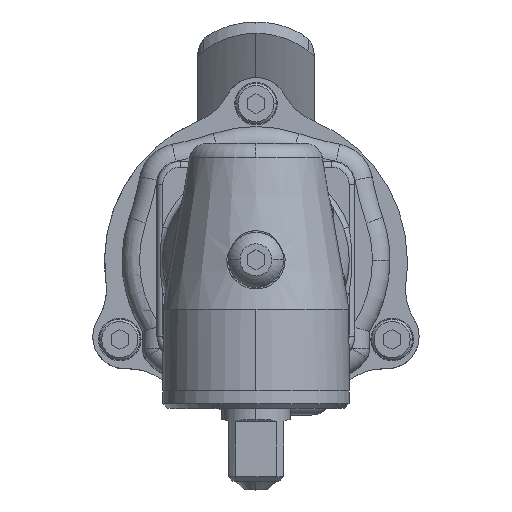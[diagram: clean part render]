
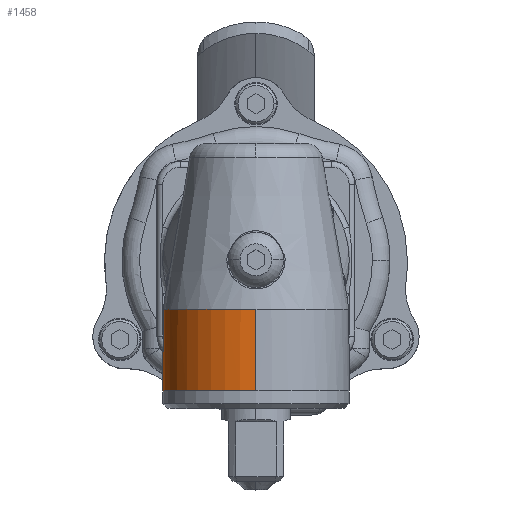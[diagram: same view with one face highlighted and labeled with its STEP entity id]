
A CAD part, top view. The second image highlights one B-rep face of the part: STEP entity #1458.
In plain terms, the highlighted cylindrical face has radius 16 mm (diameter 32 mm), a partial arc.
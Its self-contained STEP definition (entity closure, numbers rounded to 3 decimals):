
#1293 = VERTEX_POINT ( 'NONE', #63488 ) ;
#1295 = VERTEX_POINT ( 'NONE', #63487 ) ;
#1342 = VERTEX_POINT ( 'NONE', #63657 ) ;
#1351 = EDGE_CURVE ( 'NONE', #1293, #1295, #63681, .T. ) ;
#1458 = ADVANCED_FACE ( 'NONE', ( #63881 ), #63879, .T. ) ;
#1459 = EDGE_LOOP ( 'NONE', ( #1460, #1461, #1519, #1522, #1525, #1527 ) ) ;
#1460 = ORIENTED_EDGE ( 'NONE', *, *, #1351, .F. ) ;
#1461 = ORIENTED_EDGE ( 'NONE', *, *, #1492, .T. ) ;
#1490 = VERTEX_POINT ( 'NONE', #64029 ) ;
#1492 = EDGE_CURVE ( 'NONE', #1293, #1490, #64027, .T. ) ;
#1519 = ORIENTED_EDGE ( 'NONE', *, *, #1520, .T. ) ;
#1520 = EDGE_CURVE ( 'NONE', #1490, #1521, #64080, .T. ) ;
#1521 = VERTEX_POINT ( 'NONE', #64079 ) ;
#1522 = ORIENTED_EDGE ( 'NONE', *, *, #1523, .T. ) ;
#1523 = EDGE_CURVE ( 'NONE', #1521, #1524, #64071, .T. ) ;
#1524 = VERTEX_POINT ( 'NONE', #64072 ) ;
#1525 = ORIENTED_EDGE ( 'NONE', *, *, #1526, .T. ) ;
#1526 = EDGE_CURVE ( 'NONE', #1524, #1342, #64065, .T. ) ;
#1527 = ORIENTED_EDGE ( 'NONE', *, *, #1528, .F. ) ;
#1528 = EDGE_CURVE ( 'NONE', #1295, #1342, #64066, .T. ) ;
#63487 = CARTESIAN_POINT ( 'NONE',  ( 0., -22.5, 16. ) ) ;
#63488 = CARTESIAN_POINT ( 'NONE',  ( 0., -8.5, 16. ) ) ;
#63657 = CARTESIAN_POINT ( 'NONE',  ( -11.314, -22.5, -11.314 ) ) ;
#63678 = DIRECTION ( 'NONE',  ( 0., -1., 0. ) ) ;
#63679 = VECTOR ( 'NONE', #63678, 1000. ) ;
#63680 = CARTESIAN_POINT ( 'NONE',  ( 0., -27.252, 16. ) ) ;
#63681 = LINE ( 'NONE', #63680, #63679 ) ;
#63876 = DIRECTION ( 'NONE',  ( 0., 0., -1. ) ) ;
#63877 = DIRECTION ( 'NONE',  ( 0., -1., 0. ) ) ;
#63878 = AXIS2_PLACEMENT_3D ( 'NONE', #63880, #63877, #63876 ) ;
#63879 = CYLINDRICAL_SURFACE ( 'NONE', #63878, 16. ) ;
#63880 = CARTESIAN_POINT ( 'NONE',  ( 0., -27.252, 0. ) ) ;
#63881 = FACE_OUTER_BOUND ( 'NONE', #1459, .T. ) ;
#64011 = DIRECTION ( 'NONE',  ( 0., 0., -1. ) ) ;
#64012 = DIRECTION ( 'NONE',  ( 0., -1., 0. ) ) ;
#64013 = AXIS2_PLACEMENT_3D ( 'NONE', #64026, #64012, #64011 ) ;
#64026 = CARTESIAN_POINT ( 'NONE',  ( 0., -8.5, 0. ) ) ;
#64027 = CIRCLE ( 'NONE', #64013, 16. ) ;
#64029 = CARTESIAN_POINT ( 'NONE',  ( -14.554, -8.5, -6.646 ) ) ;
#64062 = CARTESIAN_POINT ( 'NONE',  ( -12.349, -12.764, -10.177 ) ) ;
#64063 = CARTESIAN_POINT ( 'NONE',  ( -12.168, -12.67, -10.394 ) ) ;
#64064 = CARTESIAN_POINT ( 'NONE',  ( -11.972, -12.605, -10.615 ) ) ;
#64065 = B_SPLINE_CURVE_WITH_KNOTS ( 'NONE', 3,
 ( #64064, #64063, #64062, #64121, #64120, #64119, #64118, #64117, #64116, #64115, #64114, #64113, #64112, #64111, #64110, #64109, #64108, #64107, #64106, #64105, #64104, #64103, #64102, #64101, #64100, #64099, #64098, #64097, #64096, #64095, #64094, #64093, #64092, #64091 ),
 .UNSPECIFIED., .F., .F.,
 ( 4, 2, 2, 2, 2, 2, 2, 2, 2, 2, 2, 2, 2, 2, 2, 2, 4 ),
 ( 0., 0.001, 0.002, 0.003, 0.004, 0.004, 0.005, 0.006, 0.007, 0.008, 0.009, 0.01, 0.011, 0.012, 0.012, 0.013, 0.014 ),
 .UNSPECIFIED. ) ;
#64066 = CIRCLE ( 'NONE', #64090, 16. ) ;
#64067 = CARTESIAN_POINT ( 'NONE',  ( -11.972, -12.605, -10.615 ) ) ;
#64068 = CARTESIAN_POINT ( 'NONE',  ( -12.932, -11.319, -9.532 ) ) ;
#64069 = CARTESIAN_POINT ( 'NONE',  ( -13.737, -9.892, -8.33 ) ) ;
#64070 = CARTESIAN_POINT ( 'NONE',  ( -14.373, -8.348, -7.03 ) ) ;
#64071 =( BOUNDED_CURVE ( )  B_SPLINE_CURVE ( 3, ( #64070, #64069, #64068, #64067 ),
 .UNSPECIFIED., .F., .T. ) 
 B_SPLINE_CURVE_WITH_KNOTS ( ( 4, 4 ),
 ( 5.167, 5.438 ),
 .UNSPECIFIED. ) 
 CURVE ( )  GEOMETRIC_REPRESENTATION_ITEM ( )  RATIONAL_B_SPLINE_CURVE ( ( 1., 0.994, 0.994, 1. ) ) 
 REPRESENTATION_ITEM ( '' )  );
#64072 = CARTESIAN_POINT ( 'NONE',  ( -11.972, -12.605, -10.615 ) ) ;
#64073 = CARTESIAN_POINT ( 'NONE',  ( -14.373, -8.348, -7.03 ) ) ;
#64074 = CARTESIAN_POINT ( 'NONE',  ( -14.394, -8.411, -6.987 ) ) ;
#64075 = CARTESIAN_POINT ( 'NONE',  ( -14.425, -8.45, -6.923 ) ) ;
#64076 = CARTESIAN_POINT ( 'NONE',  ( -14.489, -8.493, -6.789 ) ) ;
#64077 = CARTESIAN_POINT ( 'NONE',  ( -14.522, -8.5, -6.717 ) ) ;
#64078 = CARTESIAN_POINT ( 'NONE',  ( -14.554, -8.5, -6.646 ) ) ;
#64079 = CARTESIAN_POINT ( 'NONE',  ( -14.373, -8.348, -7.03 ) ) ;
#64080 = B_SPLINE_CURVE_WITH_KNOTS ( 'NONE', 3,
 ( #64078, #64077, #64076, #64075, #64074, #64073 ),
 .UNSPECIFIED., .F., .F.,
 ( 4, 2, 4 ),
 ( 0., 0., 0. ),
 .UNSPECIFIED. ) ;
#64087 = DIRECTION ( 'NONE',  ( 0., 0., -1. ) ) ;
#64088 = DIRECTION ( 'NONE',  ( 0., -1., 0. ) ) ;
#64089 = CARTESIAN_POINT ( 'NONE',  ( 0., -22.5, 0. ) ) ;
#64090 = AXIS2_PLACEMENT_3D ( 'NONE', #64089, #64088, #64087 ) ;
#64091 = CARTESIAN_POINT ( 'NONE',  ( -11.314, -22.5, -11.314 ) ) ;
#64092 = CARTESIAN_POINT ( 'NONE',  ( -11.525, -22.5, -11.102 ) ) ;
#64093 = CARTESIAN_POINT ( 'NONE',  ( -11.729, -22.47, -10.887 ) ) ;
#64094 = CARTESIAN_POINT ( 'NONE',  ( -12.119, -22.351, -10.45 ) ) ;
#64095 = CARTESIAN_POINT ( 'NONE',  ( -12.307, -22.26, -10.228 ) ) ;
#64096 = CARTESIAN_POINT ( 'NONE',  ( -12.651, -22.028, -9.799 ) ) ;
#64097 = CARTESIAN_POINT ( 'NONE',  ( -12.81, -21.887, -9.59 ) ) ;
#64098 = CARTESIAN_POINT ( 'NONE',  ( -13.104, -21.553, -9.184 ) ) ;
#64099 = CARTESIAN_POINT ( 'NONE',  ( -13.236, -21.363, -8.991 ) ) ;
#64100 = CARTESIAN_POINT ( 'NONE',  ( -13.472, -20.947, -8.635 ) ) ;
#64101 = CARTESIAN_POINT ( 'NONE',  ( -13.576, -20.72, -8.469 ) ) ;
#64102 = CARTESIAN_POINT ( 'NONE',  ( -13.759, -20.23, -8.169 ) ) ;
#64103 = CARTESIAN_POINT ( 'NONE',  ( -13.835, -19.973, -8.038 ) ) ;
#64104 = CARTESIAN_POINT ( 'NONE',  ( -13.963, -19.436, -7.814 ) ) ;
#64105 = CARTESIAN_POINT ( 'NONE',  ( -14.014, -19.154, -7.721 ) ) ;
#64106 = CARTESIAN_POINT ( 'NONE',  ( -14.091, -18.574, -7.579 ) ) ;
#64107 = CARTESIAN_POINT ( 'NONE',  ( -14.117, -18.281, -7.531 ) ) ;
#64108 = CARTESIAN_POINT ( 'NONE',  ( -14.143, -17.688, -7.481 ) ) ;
#64109 = CARTESIAN_POINT ( 'NONE',  ( -14.144, -17.385, -7.479 ) ) ;
#64110 = CARTESIAN_POINT ( 'NONE',  ( -14.121, -16.787, -7.522 ) ) ;
#64111 = CARTESIAN_POINT ( 'NONE',  ( -14.098, -16.493, -7.567 ) ) ;
#64112 = CARTESIAN_POINT ( 'NONE',  ( -14.025, -15.915, -7.701 ) ) ;
#64113 = CARTESIAN_POINT ( 'NONE',  ( -13.976, -15.629, -7.791 ) ) ;
#64114 = CARTESIAN_POINT ( 'NONE',  ( -13.851, -15.086, -8.009 ) ) ;
#64115 = CARTESIAN_POINT ( 'NONE',  ( -13.777, -14.828, -8.138 ) ) ;
#64116 = CARTESIAN_POINT ( 'NONE',  ( -13.599, -14.335, -8.431 ) ) ;
#64117 = CARTESIAN_POINT ( 'NONE',  ( -13.496, -14.103, -8.596 ) ) ;
#64118 = CARTESIAN_POINT ( 'NONE',  ( -13.265, -13.682, -8.949 ) ) ;
#64119 = CARTESIAN_POINT ( 'NONE',  ( -13.136, -13.491, -9.138 ) ) ;
#64120 = CARTESIAN_POINT ( 'NONE',  ( -12.846, -13.149, -9.541 ) ) ;
#64121 = CARTESIAN_POINT ( 'NONE',  ( -12.688, -13.003, -9.751 ) ) ;
